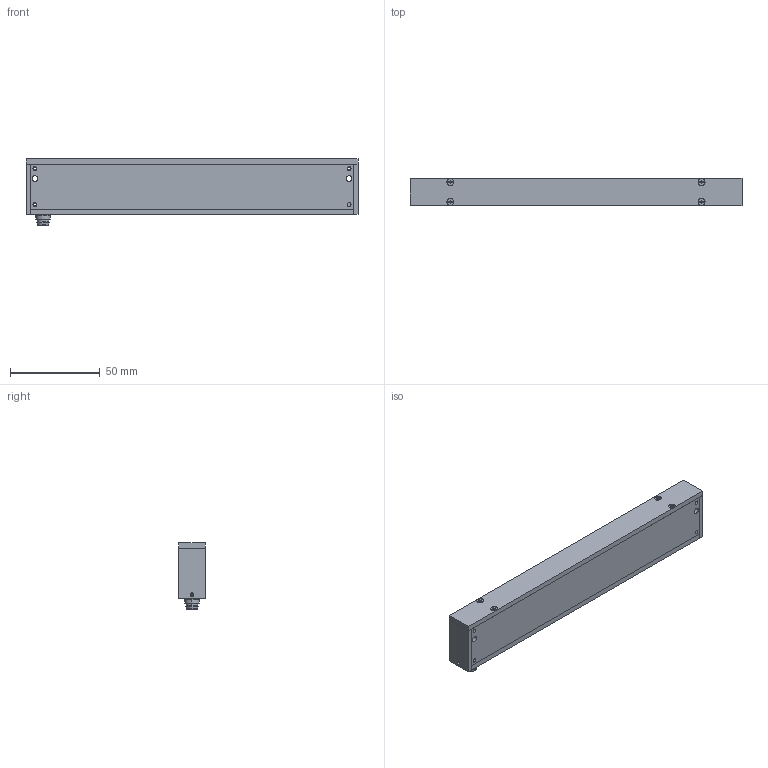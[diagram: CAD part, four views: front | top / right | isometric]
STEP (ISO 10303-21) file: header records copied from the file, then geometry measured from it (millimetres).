
FILE_DESCRIPTION(('STEP AP214'),'1');
FILE_NAME('TopLine 3TE Kundenmodell ohne Front.stp','2020-04-07T13:04:25',(' '),(' '),'Spatial InterOp 3D',' ',' ');
FILE_SCHEMA(('AUTOMOTIVE_DESIGN { 1 0 10303 214 1 1 1 1 }'));
Length unit declared in the file: metre
Products named in the file (11): TopLine 3TE  Kundenmodell ohne Front; Rückwand; Seitenwand; Gehäuseabschluss; Front; Stecker; 86_6819_0002_00004; Muster; Komponente1; M2 Senkkopf; Schrauben
Assembly tree (13 placements, depth 5):
  TopLine 3TE  Kundenmodell ohne Front
    Rückwand
    Seitenwand
    Gehäuseabschluss
    Front
    Stecker
      86_6819_0002_00004
    Schrauben
      M2 Senkkopf
        Muster
          Komponente1  x4
Bounding box: 185 x 15 x 37 mm (x, y, z)
Volume: 57898.8 mm3; surface area: 41936.7 mm2
Topology: 11 solids, 11 shells, 364 faces, 889 edges, 535 vertices
Faces by surface type: cylinder 132, plane 132, cone 74, sphere 16, torus 10
Entity records: 8153 total; most frequent: DIRECTION 1477, CARTESIAN_POINT 1346, ORIENTED_EDGE 1254, EDGE_CURVE 627, AXIS2_PLACEMENT_3D 568, VERTEX_POINT 391, LINE 341, VECTOR 341
